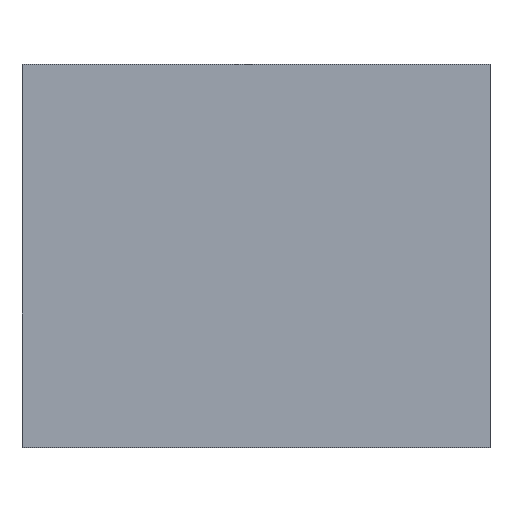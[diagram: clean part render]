
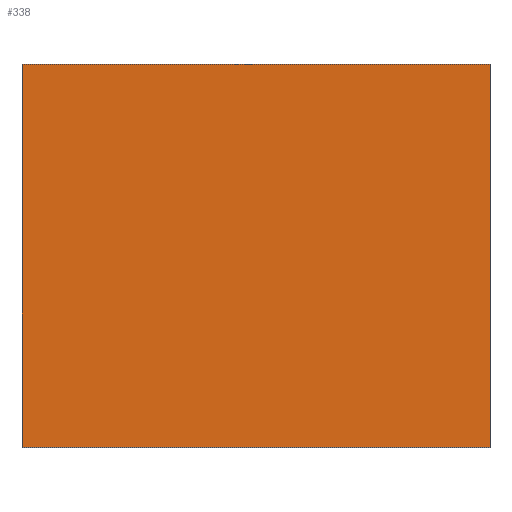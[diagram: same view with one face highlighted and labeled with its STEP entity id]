
A CAD part, top view. The second image highlights one B-rep face of the part: STEP entity #338.
In plain terms, the highlighted planar face has unit normal (0, 0, 1).
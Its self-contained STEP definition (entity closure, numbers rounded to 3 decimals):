
#21 = EDGE_CURVE('',#22,#24,#26,.T.);
#22 = VERTEX_POINT('',#23);
#23 = CARTESIAN_POINT('',(-6.5,-6.5,95.));
#24 = VERTEX_POINT('',#25);
#25 = CARTESIAN_POINT('',(-6.5,-33.5,95.));
#26 = SURFACE_CURVE('',#27,(#31,#43),.PCURVE_S1.);
#27 = LINE('',#28,#29);
#28 = CARTESIAN_POINT('',(-6.5,-33.5,95.));
#29 = VECTOR('',#30,1.);
#30 = DIRECTION('',(0.,-1.,0.));
#31 = PCURVE('',#32,#37);
#32 = PLANE('',#33);
#33 = AXIS2_PLACEMENT_3D('',#34,#35,#36);
#34 = CARTESIAN_POINT('',(-6.5,-33.5,84.));
#35 = DIRECTION('',(1.,0.,0.));
#36 = DIRECTION('',(0.,0.,1.));
#37 = DEFINITIONAL_REPRESENTATION('',(#38),#42);
#38 = LINE('',#39,#40);
#39 = CARTESIAN_POINT('',(11.,0.));
#40 = VECTOR('',#41,1.);
#41 = DIRECTION('',(0.,1.));
#42 = ( GEOMETRIC_REPRESENTATION_CONTEXT(2) 
PARAMETRIC_REPRESENTATION_CONTEXT() REPRESENTATION_CONTEXT('2D SPACE',''
  ) );
#43 = PCURVE('',#44,#49);
#44 = PLANE('',#45);
#45 = AXIS2_PLACEMENT_3D('',#46,#47,#48);
#46 = CARTESIAN_POINT('',(-6.5,-33.5,95.));
#47 = DIRECTION('',(0.,0.,1.));
#48 = DIRECTION('',(1.,0.,0.));
#49 = DEFINITIONAL_REPRESENTATION('',(#50),#54);
#50 = LINE('',#51,#52);
#51 = CARTESIAN_POINT('',(0.,0.));
#52 = VECTOR('',#53,1.);
#53 = DIRECTION('',(0.,-1.));
#54 = ( GEOMETRIC_REPRESENTATION_CONTEXT(2) 
PARAMETRIC_REPRESENTATION_CONTEXT() REPRESENTATION_CONTEXT('2D SPACE',''
  ) );
#72 = PLANE('',#73);
#73 = AXIS2_PLACEMENT_3D('',#74,#75,#76);
#74 = CARTESIAN_POINT('',(-6.5,-6.5,84.));
#75 = DIRECTION('',(0.,1.,0.));
#76 = DIRECTION('',(0.,0.,1.));
#126 = PLANE('',#127);
#127 = AXIS2_PLACEMENT_3D('',#128,#129,#130);
#128 = CARTESIAN_POINT('',(-6.5,-33.5,84.));
#129 = DIRECTION('',(0.,1.,0.));
#130 = DIRECTION('',(0.,0.,1.));
#144 = VERTEX_POINT('',#145);
#145 = CARTESIAN_POINT('',(26.5,-33.5,95.));
#152 = PLANE('',#153);
#153 = AXIS2_PLACEMENT_3D('',#154,#155,#156);
#154 = CARTESIAN_POINT('',(26.5,-33.5,84.));
#155 = DIRECTION('',(1.,0.,0.));
#156 = DIRECTION('',(0.,0.,1.));
#195 = VERTEX_POINT('',#196);
#196 = CARTESIAN_POINT('',(26.5,-6.5,95.));
#217 = EDGE_CURVE('',#144,#195,#218,.T.);
#218 = SURFACE_CURVE('',#219,(#223,#230),.PCURVE_S1.);
#219 = LINE('',#220,#221);
#220 = CARTESIAN_POINT('',(26.5,-33.5,95.));
#221 = VECTOR('',#222,1.);
#222 = DIRECTION('',(0.,1.,0.));
#223 = PCURVE('',#152,#224);
#224 = DEFINITIONAL_REPRESENTATION('',(#225),#229);
#225 = LINE('',#226,#227);
#226 = CARTESIAN_POINT('',(11.,0.));
#227 = VECTOR('',#228,1.);
#228 = DIRECTION('',(0.,-1.));
#229 = ( GEOMETRIC_REPRESENTATION_CONTEXT(2) 
PARAMETRIC_REPRESENTATION_CONTEXT() REPRESENTATION_CONTEXT('2D SPACE',''
  ) );
#230 = PCURVE('',#44,#231);
#231 = DEFINITIONAL_REPRESENTATION('',(#232),#236);
#232 = LINE('',#233,#234);
#233 = CARTESIAN_POINT('',(33.,0.));
#234 = VECTOR('',#235,1.);
#235 = DIRECTION('',(0.,1.));
#236 = ( GEOMETRIC_REPRESENTATION_CONTEXT(2) 
PARAMETRIC_REPRESENTATION_CONTEXT() REPRESENTATION_CONTEXT('2D SPACE',''
  ) );
#242 = EDGE_CURVE('',#24,#144,#243,.T.);
#243 = SURFACE_CURVE('',#244,(#248,#255),.PCURVE_S1.);
#244 = LINE('',#245,#246);
#245 = CARTESIAN_POINT('',(-6.5,-33.5,95.));
#246 = VECTOR('',#247,1.);
#247 = DIRECTION('',(1.,0.,0.));
#248 = PCURVE('',#126,#249);
#249 = DEFINITIONAL_REPRESENTATION('',(#250),#254);
#250 = LINE('',#251,#252);
#251 = CARTESIAN_POINT('',(11.,0.));
#252 = VECTOR('',#253,1.);
#253 = DIRECTION('',(0.,1.));
#254 = ( GEOMETRIC_REPRESENTATION_CONTEXT(2) 
PARAMETRIC_REPRESENTATION_CONTEXT() REPRESENTATION_CONTEXT('2D SPACE',''
  ) );
#255 = PCURVE('',#44,#256);
#256 = DEFINITIONAL_REPRESENTATION('',(#257),#261);
#257 = LINE('',#258,#259);
#258 = CARTESIAN_POINT('',(0.,0.));
#259 = VECTOR('',#260,1.);
#260 = DIRECTION('',(1.,0.));
#261 = ( GEOMETRIC_REPRESENTATION_CONTEXT(2) 
PARAMETRIC_REPRESENTATION_CONTEXT() REPRESENTATION_CONTEXT('2D SPACE',''
  ) );
#310 = EDGE_CURVE('',#22,#195,#311,.T.);
#311 = SURFACE_CURVE('',#312,(#316,#323),.PCURVE_S1.);
#312 = LINE('',#313,#314);
#313 = CARTESIAN_POINT('',(-6.5,-6.5,95.));
#314 = VECTOR('',#315,1.);
#315 = DIRECTION('',(1.,0.,0.));
#316 = PCURVE('',#72,#317);
#317 = DEFINITIONAL_REPRESENTATION('',(#318),#322);
#318 = LINE('',#319,#320);
#319 = CARTESIAN_POINT('',(11.,0.));
#320 = VECTOR('',#321,1.);
#321 = DIRECTION('',(0.,1.));
#322 = ( GEOMETRIC_REPRESENTATION_CONTEXT(2) 
PARAMETRIC_REPRESENTATION_CONTEXT() REPRESENTATION_CONTEXT('2D SPACE',''
  ) );
#323 = PCURVE('',#44,#324);
#324 = DEFINITIONAL_REPRESENTATION('',(#325),#329);
#325 = LINE('',#326,#327);
#326 = CARTESIAN_POINT('',(0.,27.));
#327 = VECTOR('',#328,1.);
#328 = DIRECTION('',(1.,0.));
#329 = ( GEOMETRIC_REPRESENTATION_CONTEXT(2) 
PARAMETRIC_REPRESENTATION_CONTEXT() REPRESENTATION_CONTEXT('2D SPACE',''
  ) );
#338 = ADVANCED_FACE('',(#339),#44,.T.);
#339 = FACE_BOUND('',#340,.T.);
#340 = EDGE_LOOP('',(#341,#342,#343,#344));
#341 = ORIENTED_EDGE('',*,*,#21,.T.);
#342 = ORIENTED_EDGE('',*,*,#242,.T.);
#343 = ORIENTED_EDGE('',*,*,#217,.T.);
#344 = ORIENTED_EDGE('',*,*,#310,.F.);
